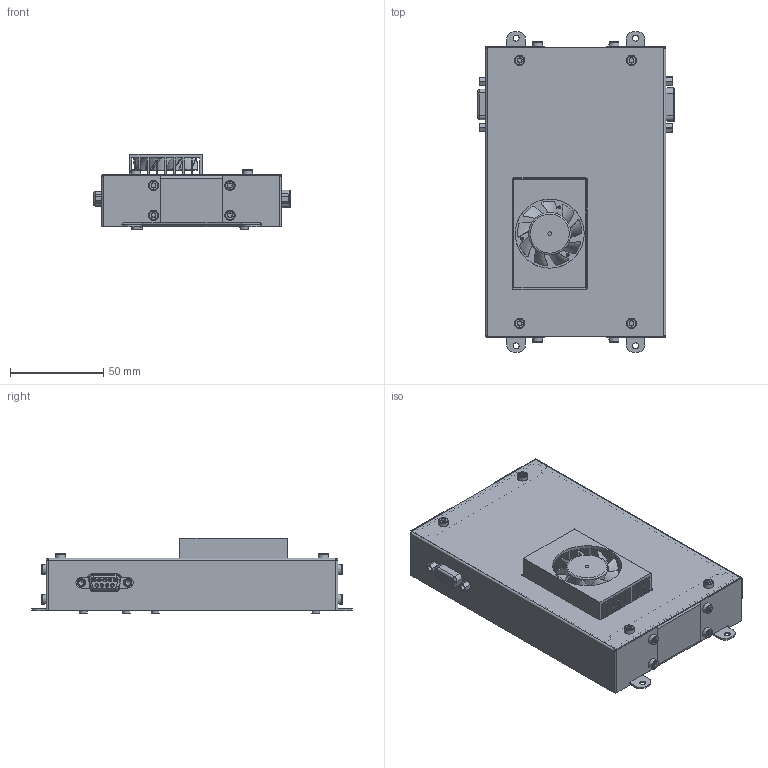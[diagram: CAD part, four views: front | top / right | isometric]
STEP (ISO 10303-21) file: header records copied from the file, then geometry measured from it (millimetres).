
FILE_DESCRIPTION(/* description */ (''),/* implementation_level */ '2;1');
FILE_NAME(/* name */ 'AI_PC_EFIS_VS_Light_Dimensions_STEP.step',/* time_stamp */ '2026-02-13T13:59:59+01:00',/* author */ (''),/* organization */ (''),/* preprocessor_version */ 'ST-DEVELOPER v20.1',/* originating_system */ 'Autodesk Translation Framework v14.24.0.0',/* authorisation */ '');
FILE_SCHEMA (('AUTOMOTIVE_DESIGN { 1 0 10303 214 3 1 1 }'));
Products named in the file (1): AI_PC_EFIS_VS_Light_Dimensions_STEP
Bounding box: 105.4 x 172 x 40.72 mm (x, y, z)
Volume: 409159.3 mm3; surface area: 171062.6 mm2
Topology: 37 solids, 381 shells, 4261 faces, 12918 edges, 8961 vertices
Faces by surface type: plane 2543, cylinder 1438, cone 129, bspline 79, torus 53, sphere 19
Full cylindrical faces by diameter (mm): 1 x9, 1.15 x9, 1.25 x3, 1.96 x1, 2.35 x4, 2.36 x2, 2.43 x8, 2.68 x4, 2.7 x4, 2.75 x4, 2.845 x4, 2.927 x12, 3.1 x2, 3.2 x20, 3.25 x2, 4.1 x2, 4.25 x2, 5 x12, 22.51 x1, 37 x1
Entity records: 167279 total; most frequent: CARTESIAN_POINT 48752, ORIENTED_EDGE 24202, DIRECTION 24084, EDGE_CURVE 12902, LINE 9080, VECTOR 9080, VERTEX_POINT 8961, AXIS2_PLACEMENT_3D 7502
